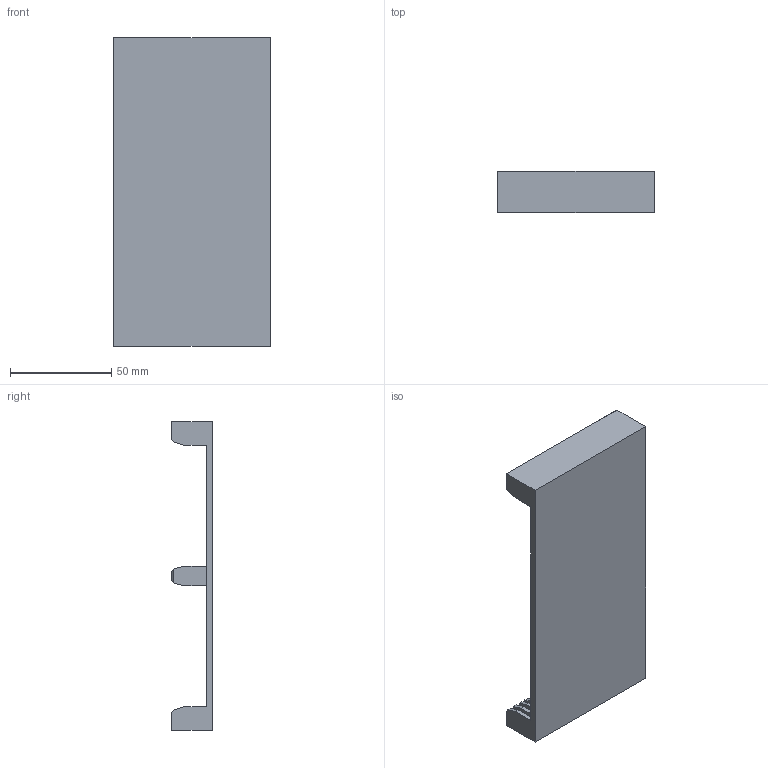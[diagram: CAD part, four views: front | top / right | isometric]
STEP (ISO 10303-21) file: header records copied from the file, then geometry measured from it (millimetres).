
FILE_DESCRIPTION(/* description */ (''),/* implementation_level */ '2;1');
FILE_NAME(/* name */ 'RamholderV2.stp',/* time_stamp */ '2023-09-28T17:24:47+02:00',/* author */ ('benme'),/* organization */ (''),/* preprocessor_version */ 'ST-DEVELOPER v19.2',/* originating_system */ 'Autodesk Inventor 2024',/* authorisation */ '');
FILE_SCHEMA (('AUTOMOTIVE_DESIGN { 1 0 10303 214 3 1 1 }'));
Length unit declared in the file: millimetre
Products named in the file (1): Ramholder
Bounding box: 77 x 20 x 152 mm (x, y, z)
Volume: 49086.9 mm3; surface area: 44002.3 mm2
Topology: 1 solids, 1 shells, 489 faces, 1461 edges, 974 vertices
Faces by surface type: plane 489
Entity records: 16138 total; most frequent: CARTESIAN_POINT 2925, ORIENTED_EDGE 2922, DIRECTION 2441, LINE 1461, VECTOR 1461, EDGE_CURVE 1461, VERTEX_POINT 974, AXIS2_PLACEMENT_3D 490
